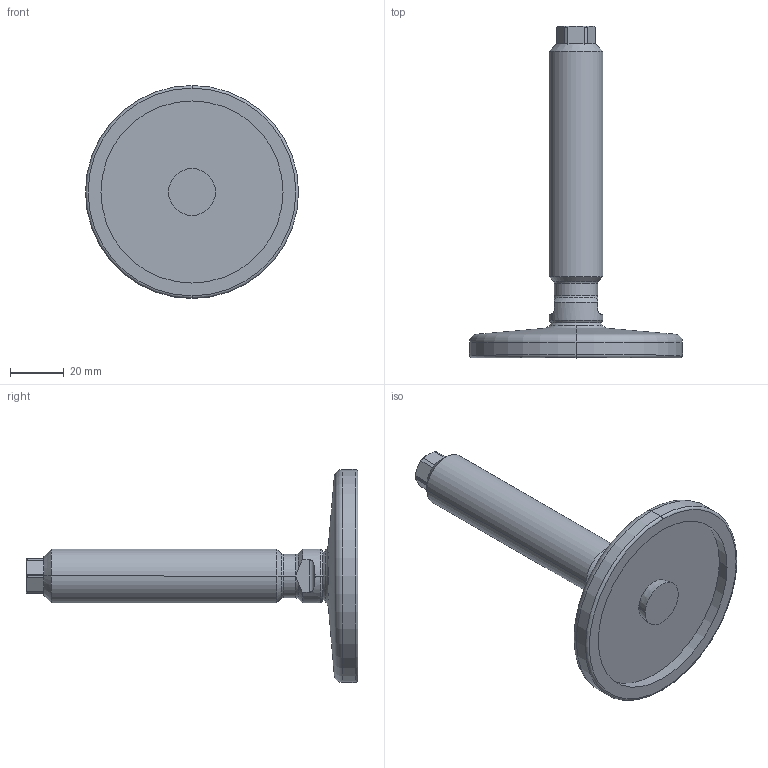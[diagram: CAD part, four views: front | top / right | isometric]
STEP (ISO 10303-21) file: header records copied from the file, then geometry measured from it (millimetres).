
FILE_DESCRIPTION (( 'STEP AP214' ), '1' );
FILE_NAME ('21-80-M20-100-D0-V.step', '2020-10-02T17:35:51', ( '' ), ( '' ), 'SwSTEP 2.0', 'SolidWorks 2019', '' );
FILE_SCHEMA (( 'AUTOMOTIVE_DESIGN' ));
Length unit declared in the file: millimetre
Products named in the file (3): WB21_Fußteller 21^WB21_V_D0-080-R12-B9 (M20); WB21_Spindel_V^WB21_V_M20-100; 21-80-M20-100-D0-V
Assembly tree (2 placements, depth 2):
  21-80-M20-100-D0-V
    WB21_Fußteller 21^WB21_V_D0-080-R12-B9 (M20)
    WB21_Spindel_V^WB21_V_M20-100
Bounding box: 79 x 123.02 x 79 mm (x, y, z)
Volume: 64051.7 mm3; surface area: 20542.3 mm2
Topology: 2 solids, 2 shells, 79 faces, 177 edges, 105 vertices
Faces by surface type: cylinder 23, cone 21, plane 21, torus 10, sphere 4
Entity records: 2434 total; most frequent: CARTESIAN_POINT 518, DIRECTION 406, ORIENTED_EDGE 354, EDGE_CURVE 177, AXIS2_PLACEMENT_3D 173, VERTEX_POINT 105, CIRCLE 89, EDGE_LOOP 82
